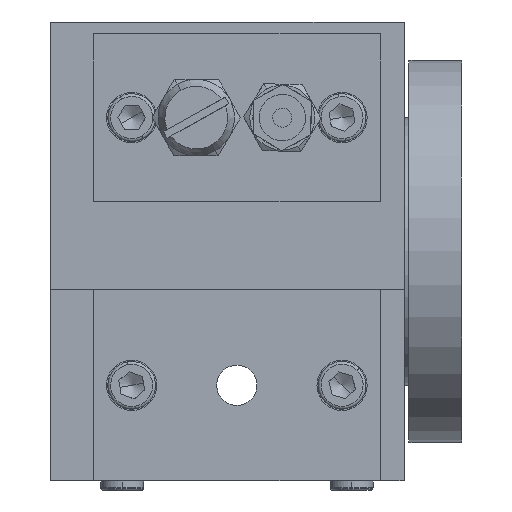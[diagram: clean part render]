
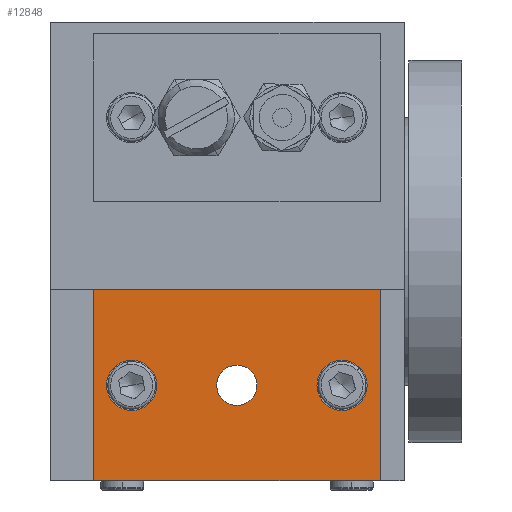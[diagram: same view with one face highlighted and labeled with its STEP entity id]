
A CAD part, left-side view. The second image highlights one B-rep face of the part: STEP entity #12848.
In plain terms, the highlighted planar face has unit normal (-1, 0, 0).
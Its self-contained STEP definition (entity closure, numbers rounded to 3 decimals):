
#4668=CARTESIAN_POINT('',(-178.,-17.,14.75));
#4669=VERTEX_POINT('',#4668);
#4685=CARTESIAN_POINT('',(-178.,-17.,25.25));
#4686=VERTEX_POINT('',#4685);
#4693=CARTESIAN_POINT('',(-178.,-17.,20.));
#4694=DIRECTION('',(1.0,0.0,0.0));
#4695=DIRECTION('',(0.0,0.0,-1.0));
#4696=AXIS2_PLACEMENT_3D('',#4693,#4694,#4695);
#4697=CIRCLE('',#4696,5.25);
#4698=EDGE_CURVE('',#4669,#4686,#4697,.T.);
#4731=CARTESIAN_POINT('',(-178.,-61.,14.75));
#4732=VERTEX_POINT('',#4731);
#4748=CARTESIAN_POINT('',(-178.,-61.,25.25));
#4749=VERTEX_POINT('',#4748);
#4756=CARTESIAN_POINT('',(-178.,-61.,20.));
#4757=DIRECTION('',(1.0,0.0,0.0));
#4758=DIRECTION('',(0.0,0.0,-1.0));
#4759=AXIS2_PLACEMENT_3D('',#4756,#4757,#4758);
#4760=CIRCLE('',#4759,5.25);
#4761=EDGE_CURVE('',#4732,#4749,#4760,.T.);
#4794=CARTESIAN_POINT('',(-178.,-39.,15.793));
#4795=VERTEX_POINT('',#4794);
#4811=CARTESIAN_POINT('',(-178.,-39.,24.207));
#4812=VERTEX_POINT('',#4811);
#4819=CARTESIAN_POINT('',(-178.,-39.,20.));
#4820=DIRECTION('',(1.0,0.0,0.0));
#4821=DIRECTION('',(0.0,0.0,-1.0));
#4822=AXIS2_PLACEMENT_3D('',#4819,#4820,#4821);
#4823=CIRCLE('',#4822,4.207);
#4824=EDGE_CURVE('',#4795,#4812,#4823,.T.);
#12565=CARTESIAN_POINT('',(-178.,-39.,20.));
#12566=DIRECTION('',(1.0,0.0,0.0));
#12567=DIRECTION('',(0.0,0.0,-1.0));
#12568=AXIS2_PLACEMENT_3D('',#12565,#12566,#12567);
#12569=CIRCLE('',#12568,4.207);
#12570=EDGE_CURVE('',#4812,#4795,#12569,.T.);
#12630=CARTESIAN_POINT('',(-178.,-61.,20.));
#12631=DIRECTION('',(1.0,0.0,0.0));
#12632=DIRECTION('',(0.0,0.0,-1.0));
#12633=AXIS2_PLACEMENT_3D('',#12630,#12631,#12632);
#12634=CIRCLE('',#12633,5.25);
#12635=EDGE_CURVE('',#4749,#4732,#12634,.T.);
#12689=CARTESIAN_POINT('',(-178.,-17.,20.));
#12690=DIRECTION('',(1.0,0.0,0.0));
#12691=DIRECTION('',(0.0,0.0,-1.0));
#12692=AXIS2_PLACEMENT_3D('',#12689,#12690,#12691);
#12693=CIRCLE('',#12692,5.25);
#12694=EDGE_CURVE('',#4686,#4669,#12693,.T.);
#12716=CARTESIAN_POINT('',(-178.,-9.,40.));
#12717=VERTEX_POINT('',#12716);
#12724=CARTESIAN_POINT('',(-178.,-69.,40.));
#12725=VERTEX_POINT('',#12724);
#12726=CARTESIAN_POINT('',(-178.,-69.,40.));
#12727=DIRECTION('',(0.0,1.0,0.0));
#12728=VECTOR('',#12727,60.);
#12729=LINE('',#12726,#12728);
#12730=EDGE_CURVE('',#12725,#12717,#12729,.T.);
#12754=CARTESIAN_POINT('',(-178.,-9.,0.));
#12755=VERTEX_POINT('',#12754);
#12762=CARTESIAN_POINT('',(-178.,-9.,40.));
#12763=DIRECTION('',(0.0,0.0,-1.0));
#12764=VECTOR('',#12763,40.);
#12765=LINE('',#12762,#12764);
#12766=EDGE_CURVE('',#12717,#12755,#12765,.T.);
#12785=CARTESIAN_POINT('',(-178.,-69.,0.));
#12786=VERTEX_POINT('',#12785);
#12793=CARTESIAN_POINT('',(-178.,-9.,0.));
#12794=DIRECTION('',(0.0,-1.0,0.0));
#12795=VECTOR('',#12794,60.0);
#12796=LINE('',#12793,#12795);
#12797=EDGE_CURVE('',#12755,#12786,#12796,.T.);
#12815=CARTESIAN_POINT('',(-178.,-69.,0.));
#12816=DIRECTION('',(0.0,0.0,1.0));
#12817=VECTOR('',#12816,40.);
#12818=LINE('',#12815,#12817);
#12819=EDGE_CURVE('',#12786,#12725,#12818,.T.);
#12825=CARTESIAN_POINT('',(-178.,-39.,20.));
#12826=DIRECTION('',(-1.0,0.0,0.0));
#12827=DIRECTION('',(0.0,1.0,0.0));
#12828=AXIS2_PLACEMENT_3D('',#12825,#12826,#12827);
#12829=PLANE('',#12828);
#12830=ORIENTED_EDGE('',*,*,#12819,.T.);
#12831=ORIENTED_EDGE('',*,*,#12730,.T.);
#12832=ORIENTED_EDGE('',*,*,#12766,.T.);
#12833=ORIENTED_EDGE('',*,*,#12797,.T.);
#12834=EDGE_LOOP('',(#12830,#12831,#12832,#12833));
#12835=FACE_OUTER_BOUND('',#12834,.T.);
#12836=ORIENTED_EDGE('',*,*,#4824,.T.);
#12837=ORIENTED_EDGE('',*,*,#12570,.T.);
#12838=EDGE_LOOP('',(#12836,#12837));
#12839=FACE_BOUND('',#12838,.T.);
#12840=ORIENTED_EDGE('',*,*,#4761,.T.);
#12841=ORIENTED_EDGE('',*,*,#12635,.T.);
#12842=EDGE_LOOP('',(#12840,#12841));
#12843=FACE_BOUND('',#12842,.T.);
#12844=ORIENTED_EDGE('',*,*,#4698,.T.);
#12845=ORIENTED_EDGE('',*,*,#12694,.T.);
#12846=EDGE_LOOP('',(#12844,#12845));
#12847=FACE_BOUND('',#12846,.T.);
#12848=ADVANCED_FACE('',(#12835,#12839,#12843,#12847),#12829,.T.);
